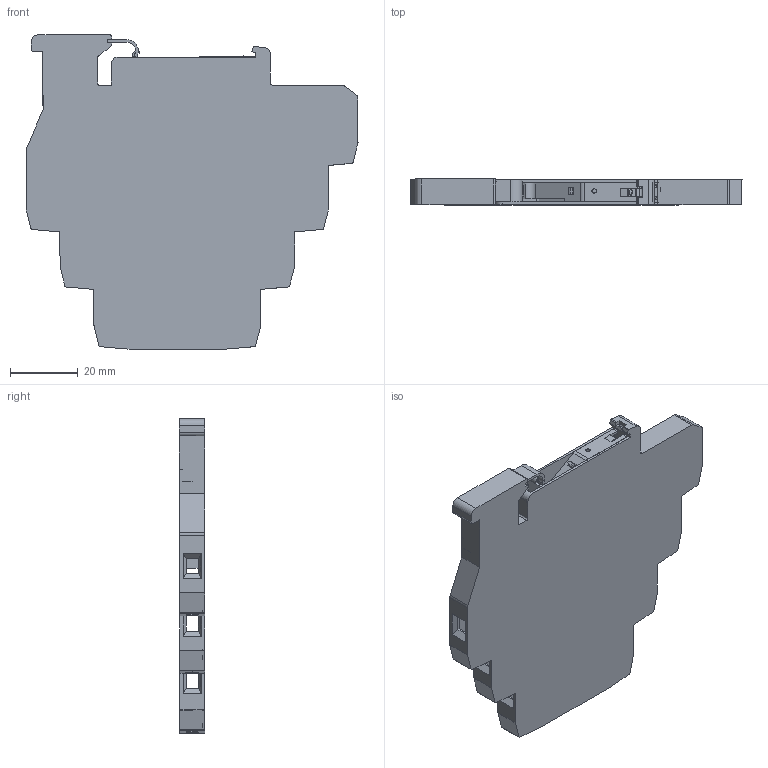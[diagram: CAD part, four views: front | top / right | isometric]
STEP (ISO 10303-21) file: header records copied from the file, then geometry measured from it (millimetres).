
FILE_DESCRIPTION((''),'2;1');
FILE_NAME('CZ2047_ASM_ASM','2024-05-17T13:43:53',('Admin'),(''),'CREO PARAMETRIC BY PTC INC, 2021404','CREO PARAMETRIC BY PTC INC, 2021404','');
FILE_SCHEMA(('CONFIG_CONTROL_DESIGN','SHAPE_APPEARANCE_LAYERS_GROUPS'));
Length unit declared in the file: millimetre
Products named in the file (10): K014-A003-345_2; K014-A003-356_4; K014-A003-89_1; K014-A003_ASM_1_ASM; 6_6_02_K1403DKB__K0001_ASM_1_ASM; K014-A003-2_8; K014-A003_-_A_ASM_1_ASM; 6_6_02_K1403DKA__K0001_ASM_1_ASM; CZ2047_ASM_3_ASM; CZ2047_ASM_ASM
Assembly tree (14 placements, depth 5):
  CZ2047_ASM_ASM
    CZ2047_ASM_3_ASM
      6_6_02_K1403DKB__K0001_ASM_1_ASM
        K014-A003_ASM_1_ASM
          K014-A003-345_2
          K014-A003-356_4  x6
          K014-A003-89_1
      6_6_02_K1403DKA__K0001_ASM_1_ASM
        K014-A003_-_A_ASM_1_ASM
          K014-A003-2_8
Bounding box: 97.65 x 7.6 x 92.4 mm (x, y, z)
Volume: 21449.1 mm3; surface area: 30056.7 mm2
Topology: 9 solids, 19 shells, 875 faces, 2428 edges, 1571 vertices
Faces by surface type: plane 629, cylinder 158, torus 70, cone 18
Entity records: 33115 total; most frequent: CARTESIAN_POINT 4969, ORIENTED_EDGE 4356, DIRECTION 4058, PRESENTATION_STYLE_ASSIGNMENT 2182, STYLED_ITEM 2182, CURVE_STYLE 2178, EDGE_CURVE 2178, VECTOR 1774
